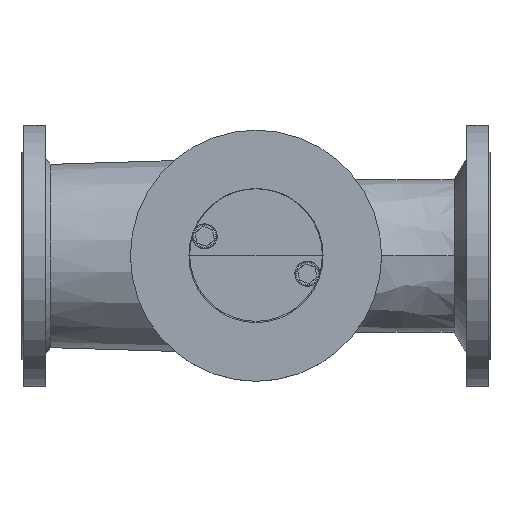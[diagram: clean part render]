
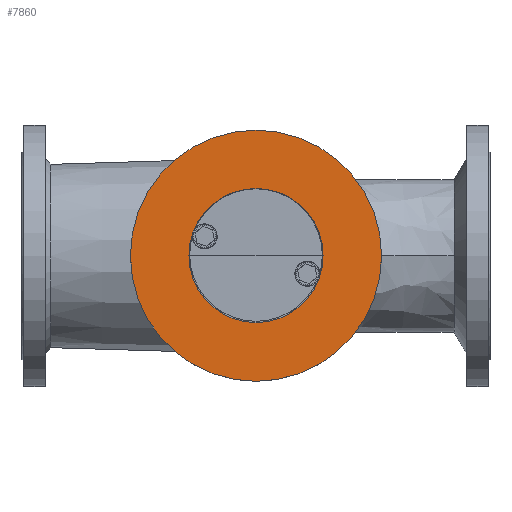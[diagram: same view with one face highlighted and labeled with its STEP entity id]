
A CAD part, top view. The second image highlights one B-rep face of the part: STEP entity #7860.
In plain terms, the highlighted planar face has unit normal (0, 0, 1).
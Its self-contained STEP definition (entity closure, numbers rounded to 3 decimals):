
#1356=FACE_BOUND('',#2029,.T.);
#1442=FACE_OUTER_BOUND('',#2028,.T.);
#2028=EDGE_LOOP('',(#5259,#5260));
#2029=EDGE_LOOP('',(#5261,#5262));
#2623=CIRCLE('',#8569,161.);
#2624=CIRCLE('',#8570,161.);
#2625=CIRCLE('',#8571,42.5);
#2626=CIRCLE('',#8572,42.5);
#3291=VERTEX_POINT('',#12388);
#3292=VERTEX_POINT('',#12389);
#3293=VERTEX_POINT('',#12392);
#3294=VERTEX_POINT('',#12393);
#3962=EDGE_CURVE('',#3291,#3292,#2623,.T.);
#3963=EDGE_CURVE('',#3292,#3291,#2624,.T.);
#3964=EDGE_CURVE('',#3293,#3294,#2625,.T.);
#3965=EDGE_CURVE('',#3294,#3293,#2626,.T.);
#5259=ORIENTED_EDGE('',*,*,#3962,.T.);
#5260=ORIENTED_EDGE('',*,*,#3963,.T.);
#5261=ORIENTED_EDGE('',*,*,#3964,.T.);
#5262=ORIENTED_EDGE('',*,*,#3965,.T.);
#7077=PLANE('',#8568);
#7860=ADVANCED_FACE('',(#1442,#1356),#7077,.T.);
#8568=AXIS2_PLACEMENT_3D('',#12387,#9903,#9904);
#8569=AXIS2_PLACEMENT_3D('',#12390,#9905,#9906);
#8570=AXIS2_PLACEMENT_3D('',#12391,#9907,#9908);
#8571=AXIS2_PLACEMENT_3D('',#12394,#9909,#9910);
#8572=AXIS2_PLACEMENT_3D('',#12395,#9911,#9912);
#9903=DIRECTION('center_axis',(0.,0.,1.));
#9904=DIRECTION('ref_axis',(0.,1.,0.));
#9905=DIRECTION('center_axis',(0.,0.,1.));
#9906=DIRECTION('ref_axis',(1.,0.,0.));
#9907=DIRECTION('center_axis',(0.,0.,1.));
#9908=DIRECTION('ref_axis',(1.,0.,0.));
#9909=DIRECTION('center_axis',(0.,0.,-1.));
#9910=DIRECTION('ref_axis',(1.,0.,0.));
#9911=DIRECTION('center_axis',(0.,0.,-1.));
#9912=DIRECTION('ref_axis',(1.,0.,0.));
#12387=CARTESIAN_POINT('Origin',(161.,0.,201.5));
#12388=CARTESIAN_POINT('',(-161.,0.,201.5));
#12389=CARTESIAN_POINT('',(161.,0.,201.5));
#12390=CARTESIAN_POINT('Origin',(0.,0.,201.5));
#12391=CARTESIAN_POINT('Origin',(0.,0.,201.5));
#12392=CARTESIAN_POINT('',(-42.5,0.,201.5));
#12393=CARTESIAN_POINT('',(42.5,0.,201.5));
#12394=CARTESIAN_POINT('Origin',(0.,0.,201.5));
#12395=CARTESIAN_POINT('Origin',(0.,0.,201.5));
